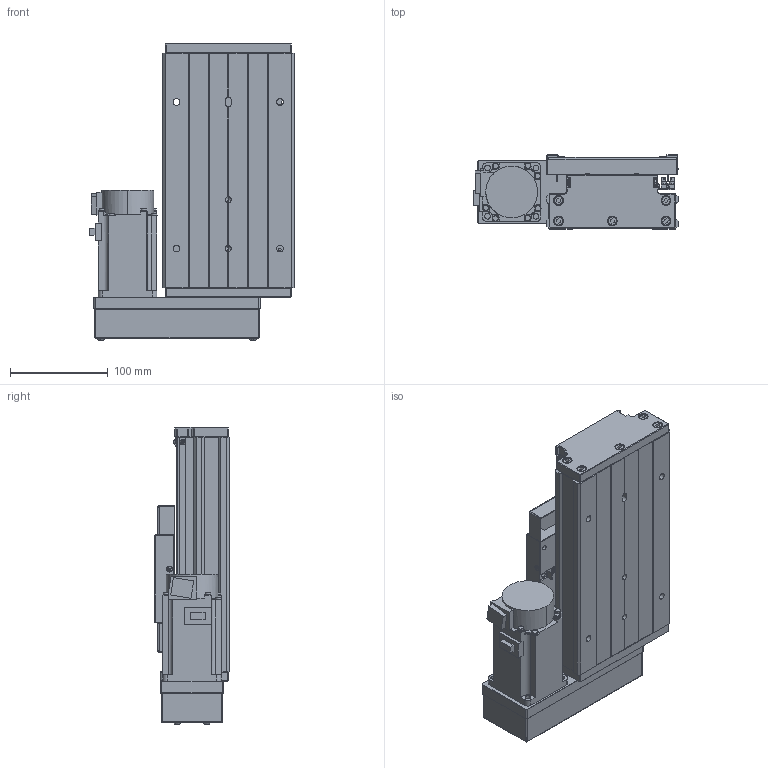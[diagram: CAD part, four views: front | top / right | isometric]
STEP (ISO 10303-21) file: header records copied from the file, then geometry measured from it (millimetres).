
FILE_DESCRIPTION (( 'STEP AP203' ), '1' );
FILE_NAME ('CTH130-50-BL-M40-C4.step', '2023-06-30T02:38:30', ( '微软用户' ), ( '微软中国' ), 'SwSTEP 2.0', 'SolidWorks 2020', '' );
FILE_SCHEMA (( 'CONFIG_CONTROL_DESIGN' ));
Length unit declared in the file: millimetre
Products named in the file (20): CTHA60-016; HG-KN43J-S100; GTH14-004; GBT 70.1-M3℅5; GBT 70.2-M4¡Á35_M4¡Á35; GTH14-005; GTH14-015-2_CTHA86-015-2; GB1155-6X6; GBT77-2000 M3×3; GTH14-033; GBT70.1 M5℅16; CTH130-031; GTH14-001_50; CTH130-50-BL-M40-C4; CTHA60-017; GB T308.1-2013-6.35; GBT 70.2-M3¡Á5_M3¡Á6; CTH130-002_GTH14-002; EE_SX911P_R; す晦芛蹟隊 M3℅5
Assembly tree (60 placements, depth 2):
  CTH130-50-BL-M40-C4
    GTH14-001_50
    CTH130-002_GTH14-002
    GB T308.1-2013-6.35  x2
    GTH14-004
    GTH14-005
    GB1155-6X6  x2
    GBT70.1 M5℅16  x10
    CTHA60-017  x3
    EE_SX911P_R  x3
    CTHA60-016  x2
    GBT 70.1-M3℅5  x6
    GBT77-2000 M3×3  x6
    CTH130-031
    GBT 70.2-M3¡Á5_M3¡Á6  x8
    す晦芛蹟隊 M3℅5  x6
    HG-KN43J-S100
    GBT 70.2-M4¡Á35_M4¡Á35  x4
    GTH14-015-2_CTHA86-015-2
    GTH14-033
Bounding box: 209.3 x 76 x 304.2 mm (x, y, z)
Volume: 1516254.2 mm3; surface area: 436073.2 mm2
Topology: 63 solids, 63 shells, 2409 faces, 5737 edges, 3545 vertices
Faces by surface type: plane 1308, cylinder 622, cone 299, torus 124, sphere 36, bspline 20
Entity records: 43132 total; most frequent: CARTESIAN_POINT 9721, DIRECTION 6242, ORIENTED_EDGE 6180, EDGE_CURVE 3090, AXIS2_PLACEMENT_3D 2110, VECTOR 2022, LINE 2022, VERTEX_POINT 1955
